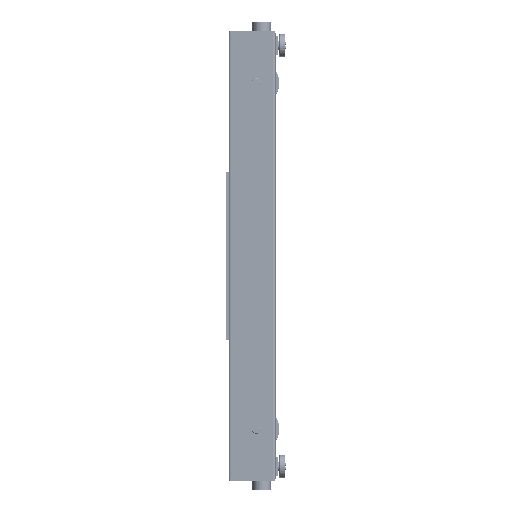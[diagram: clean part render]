
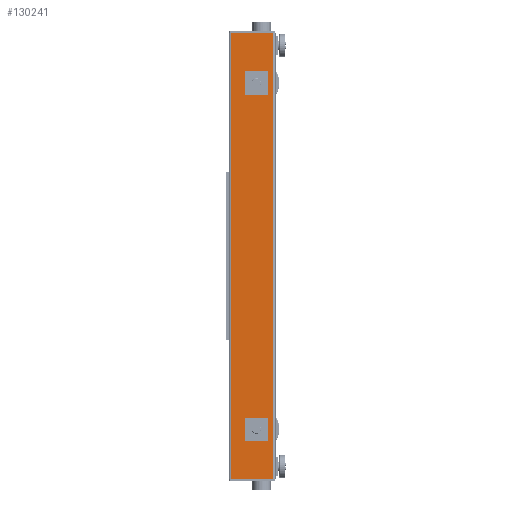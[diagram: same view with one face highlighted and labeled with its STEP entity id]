
A CAD part, left-side view. The second image highlights one B-rep face of the part: STEP entity #130241.
In plain terms, the highlighted planar face has unit normal (-1, 0, 0).
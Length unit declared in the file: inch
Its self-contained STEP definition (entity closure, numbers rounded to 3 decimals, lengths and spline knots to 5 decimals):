
#2550 = CARTESIAN_POINT ( 'NONE',  ( 0., 0.5, 47.71875 ) ) ;
#9713 = VERTEX_POINT ( 'NONE', #109252 ) ;
#9814 = CIRCLE ( 'NONE', #65952, 0.984 ) ;
#10437 = VERTEX_POINT ( 'NONE', #47777 ) ;
#10988 = VERTEX_POINT ( 'NONE', #151884 ) ;
#11185 = DIRECTION ( 'NONE',  ( 0., 0., -1. ) ) ;
#11824 = ORIENTED_EDGE ( 'NONE', *, *, #151906, .T. ) ;
#13239 = DIRECTION ( 'NONE',  ( 1., 0., 0. ) ) ;
#15651 = ORIENTED_EDGE ( 'NONE', *, *, #132551, .T. ) ;
#16153 = VECTOR ( 'NONE', #91667, 39.37008 ) ;
#16907 = LINE ( 'NONE', #70577, #48833 ) ;
#16977 = CIRCLE ( 'NONE', #47830, 0.984 ) ;
#24777 = CARTESIAN_POINT ( 'NONE',  ( 0., 0.5, -47.71875 ) ) ;
#26704 = DIRECTION ( 'NONE',  ( 0., 0., -1. ) ) ;
#29299 = DIRECTION ( 'NONE',  ( 1., 0., 0. ) ) ;
#30761 = VERTEX_POINT ( 'NONE', #143444 ) ;
#42545 = PLANE ( 'NONE',  #56257 ) ;
#43320 = DIRECTION ( 'NONE',  ( 0., 0., -1. ) ) ;
#47716 = ORIENTED_EDGE ( 'NONE', *, *, #82780, .T. ) ;
#47777 = CARTESIAN_POINT ( 'NONE',  ( 0., 4.109, -36.01575 ) ) ;
#47830 = AXIS2_PLACEMENT_3D ( 'NONE', #171303, #52653, #91410 ) ;
#48833 = VECTOR ( 'NONE', #43320, 39.37008 ) ;
#52256 = CARTESIAN_POINT ( 'NONE',  ( 0., 9.5, 47.71875 ) ) ;
#52653 = DIRECTION ( 'NONE',  ( 1., 0., 0. ) ) ;
#53300 = EDGE_CURVE ( 'NONE', #96019, #10988, #16907, .T. ) ;
#53982 = FACE_BOUND ( 'NONE', #73272, .T. ) ;
#55383 = VECTOR ( 'NONE', #91857, 39.37008 ) ;
#55609 = VERTEX_POINT ( 'NONE', #77963 ) ;
#56257 = AXIS2_PLACEMENT_3D ( 'NONE', #96197, #29299, #26704 ) ;
#58801 = CARTESIAN_POINT ( 'NONE',  ( 0., 9.5, -47.71875 ) ) ;
#59788 = CARTESIAN_POINT ( 'NONE',  ( 0., 4.109, -36.99975 ) ) ;
#65259 = ORIENTED_EDGE ( 'NONE', *, *, #145943, .F. ) ;
#65952 = AXIS2_PLACEMENT_3D ( 'NONE', #59788, #113446, #127477 ) ;
#69422 = LINE ( 'NONE', #2550, #142449 ) ;
#70577 = CARTESIAN_POINT ( 'NONE',  ( 0., 0.5, 47.71875 ) ) ;
#73272 = EDGE_LOOP ( 'NONE', ( #103179, #47716 ) ) ;
#76736 = LINE ( 'NONE', #24777, #16153 ) ;
#77963 = CARTESIAN_POINT ( 'NONE',  ( 0., 4.109, -37.98375 ) ) ;
#82780 = EDGE_CURVE ( 'NONE', #10437, #55609, #95997, .T. ) ;
#86063 = EDGE_LOOP ( 'NONE', ( #15651, #142479 ) ) ;
#89369 = ORIENTED_EDGE ( 'NONE', *, *, #98938, .T. ) ;
#91410 = DIRECTION ( 'NONE',  ( 0., 0., -1. ) ) ;
#91667 = DIRECTION ( 'NONE',  ( 0., -1., 0. ) ) ;
#91857 = DIRECTION ( 'NONE',  ( 0., 0., -1. ) ) ;
#92108 = CARTESIAN_POINT ( 'NONE',  ( 0., 4.109, 37.00025 ) ) ;
#95997 = CIRCLE ( 'NONE', #160573, 0.984 ) ;
#96019 = VERTEX_POINT ( 'NONE', #124902 ) ;
#96197 = CARTESIAN_POINT ( 'NONE',  ( 0., 0.5, 47.71875 ) ) ;
#96210 = EDGE_CURVE ( 'NONE', #55609, #10437, #9814, .T. ) ;
#96366 = AXIS2_PLACEMENT_3D ( 'NONE', #92108, #156333, #11185 ) ;
#98938 = EDGE_CURVE ( 'NONE', #30761, #146013, #173513, .T. ) ;
#103179 = ORIENTED_EDGE ( 'NONE', *, *, #96210, .T. ) ;
#103870 = ORIENTED_EDGE ( 'NONE', *, *, #53300, .F. ) ;
#108243 = CARTESIAN_POINT ( 'NONE',  ( 0., 4.109, -36.99975 ) ) ;
#109252 = CARTESIAN_POINT ( 'NONE',  ( 0., 4.109, 37.98425 ) ) ;
#110859 = EDGE_CURVE ( 'NONE', #9713, #169966, #169314, .T. ) ;
#113446 = DIRECTION ( 'NONE',  ( 1., 0., 0. ) ) ;
#124902 = CARTESIAN_POINT ( 'NONE',  ( 0., 0.5, 47.71875 ) ) ;
#127477 = DIRECTION ( 'NONE',  ( 0., 0., -1. ) ) ;
#130241 = ADVANCED_FACE ( 'NONE', ( #148070, #53982, #160346 ), #42545, .F. ) ;
#132551 = EDGE_CURVE ( 'NONE', #169966, #9713, #16977, .T. ) ;
#139690 = DIRECTION ( 'NONE',  ( 0., -1., 0. ) ) ;
#142449 = VECTOR ( 'NONE', #139690, 39.37008 ) ;
#142479 = ORIENTED_EDGE ( 'NONE', *, *, #110859, .T. ) ;
#143444 = CARTESIAN_POINT ( 'NONE',  ( 0., 9.5, 47.71875 ) ) ;
#145943 = EDGE_CURVE ( 'NONE', #30761, #96019, #69422, .T. ) ;
#146013 = VERTEX_POINT ( 'NONE', #58801 ) ;
#148070 = FACE_BOUND ( 'NONE', #86063, .T. ) ;
#148409 = EDGE_LOOP ( 'NONE', ( #11824, #103870, #65259, #89369 ) ) ;
#151884 = CARTESIAN_POINT ( 'NONE',  ( 0., 0.5, -47.71875 ) ) ;
#151906 = EDGE_CURVE ( 'NONE', #146013, #10988, #76736, .T. ) ;
#156333 = DIRECTION ( 'NONE',  ( 1., 0., 0. ) ) ;
#160346 = FACE_OUTER_BOUND ( 'NONE', #148409, .T. ) ;
#160573 = AXIS2_PLACEMENT_3D ( 'NONE', #108243, #13239, #173209 ) ;
#167616 = CARTESIAN_POINT ( 'NONE',  ( 0., 4.109, 36.01625 ) ) ;
#169314 = CIRCLE ( 'NONE', #96366, 0.984 ) ;
#169966 = VERTEX_POINT ( 'NONE', #167616 ) ;
#171303 = CARTESIAN_POINT ( 'NONE',  ( 0., 4.109, 37.00025 ) ) ;
#173209 = DIRECTION ( 'NONE',  ( 0., 0., -1. ) ) ;
#173513 = LINE ( 'NONE', #52256, #55383 ) ;
